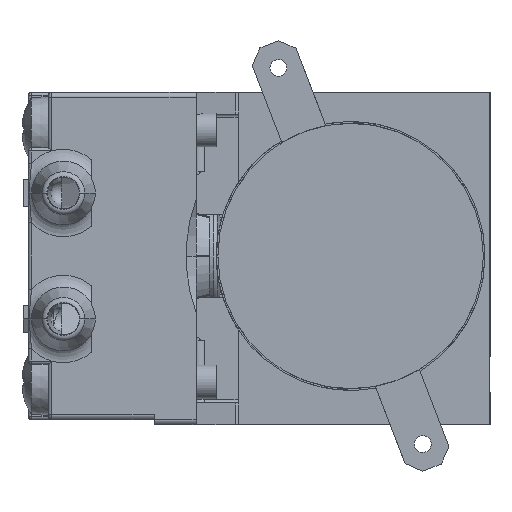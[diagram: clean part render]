
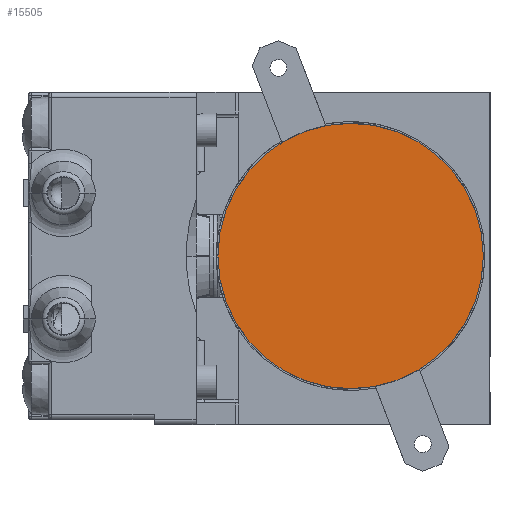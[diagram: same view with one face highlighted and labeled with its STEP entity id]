
A CAD part, left-side view. The second image highlights one B-rep face of the part: STEP entity #15505.
In plain terms, the highlighted planar face has unit normal (-1, 0, 0).
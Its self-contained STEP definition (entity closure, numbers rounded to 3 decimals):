
#7599=CARTESIAN_POINT('',(-30.1,0.,0.));
#7600=DIRECTION('',(1.,0.,0.));
#7601=DIRECTION('',(0.,-0.5,0.866));
#7602=AXIS2_PLACEMENT_3D('',#7599,#7600,#7601);
#7604=CARTESIAN_POINT('',(-30.1,0.,0.));
#7605=DIRECTION('',(1.,0.,0.));
#7606=DIRECTION('',(0.,0.5,-0.866));
#7607=AXIS2_PLACEMENT_3D('',#7604,#7605,#7606);
#13046=CARTESIAN_POINT('',(-30.1,3.95,-6.842));
#13047=VERTEX_POINT('',#13046);
#13048=CARTESIAN_POINT('',(-30.1,-3.95,6.842));
#13049=VERTEX_POINT('',#13048);
#15496=CARTESIAN_POINT('',(-30.1,0.,0.));
#15497=DIRECTION('',(1.,0.,0.));
#15498=DIRECTION('',(0.,-0.866,-0.5));
#15499=AXIS2_PLACEMENT_3D('',#15496,#15497,#15498);
#15500=PLANE('',#15499);
#15501=ORIENTED_EDGE('',*,*,#15267,.T.);
#15502=ORIENTED_EDGE('',*,*,#15361,.T.);
#15503=EDGE_LOOP('',(#15501,#15502));
#15504=FACE_OUTER_BOUND('',#15503,.F.);
#7603=CIRCLE('',#7602,7.9);
#7608=CIRCLE('',#7607,7.9);
#15267=EDGE_CURVE('',#13049,#13047,#7603,.T.);
#15361=EDGE_CURVE('',#13047,#13049,#7608,.T.);
#15505=ADVANCED_FACE('',(#15504),#15500,.F.);
